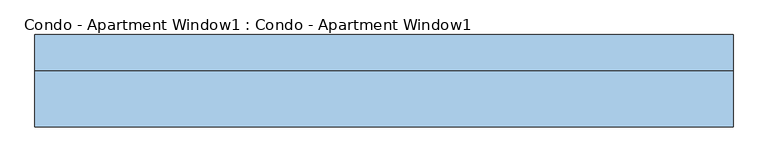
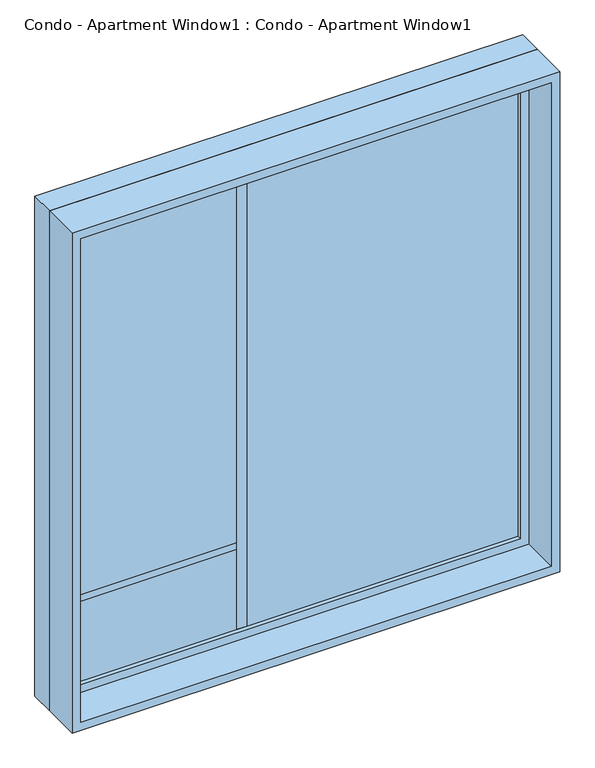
"""IFC4 building model written with IfcOpenShell, lengths in millimetres: window geometry, Condo - Apartment Window1 : Condo - Apartment Window1."""

from ifc_helpers import new_model, si_unit, frame, origin, place, context, project, spatial, polyline, outline, extrude, source, transform, mapped, element, save


def condo_apartment_window1_condo_apartment_window1_2f492663(model_context):
    return source(origin(), model_context, "Body", "SweptSolid", [
        extrude(outline(polyline([(-241.3, 66.675), (-203.2, 66.675), (-203.2, 41.275), (-241.3, 41.275), (-241.3, 66.675)])), frame((0.0, 0.0, 965.2), z_axis=(0.0, 0.0, 1.0), x_axis=(1.0, 0.0, 0.0)), (0.0, 0.0, 1.0), 1854.2),
        extrude(outline(polyline([(-889.0, 66.675), (-241.3, 66.675), (-241.3, 41.275), (-889.0, 41.275), (-889.0, 66.675)])), frame((0.0, 0.0, 1282.7), z_axis=(0.0, 0.0, 1.0), x_axis=(1.0, 0.0, 0.0)), (0.0, 0.0, 1.0), 25.4),
        extrude(outline(polyline([(812.8, 41.275), (-889.0, 41.275), (-889.0, 53.975), (812.8, 53.975), (812.8, 41.275)])), frame((0.0, 0.0, 965.2), z_axis=(0.0, 0.0, 1.0), x_axis=(1.0, 0.0, 0.0)), (0.0, 0.0, 1.0), 1854.2),
        extrude(outline(polyline([(2863.85, -933.45), (920.75, -933.45), (920.75, 857.25), (2863.85, 857.25), (2863.85, -933.45)]), holes=[polyline([(2819.4, -889.0), (2819.4, 812.8), (965.2, 812.8), (965.2, -889.0), (2819.4, -889.0)])]), frame((0.0, 25.4, 0.0), z_axis=(0.0, 1.0, 0.0), x_axis=(0.0, 0.0, 1.0)), (0.0, 0.0, 1.0), 44.45),
        extrude(outline(polyline([(2882.9, -952.5), (901.7, -952.5), (901.7, 876.3), (2882.9, 876.3), (2882.9, -952.5)]), holes=[polyline([(2851.15, -920.75), (2851.15, 844.55), (933.45, 844.55), (933.45, -920.75), (2851.15, -920.75)])]), frame((0.0, -120.65, 0.0), z_axis=(0.0, 1.0, 0.0), x_axis=(0.0, 0.0, 1.0)), (0.0, 0.0, 1.0), 146.05),
        extrude(outline(polyline([(2882.9, 876.3), (2882.9, -952.5), (901.7, -952.5), (901.7, 876.3), (2882.9, 876.3)]), holes=[polyline([(2863.85, 857.25), (920.75, 857.25), (920.75, -933.45), (2863.85, -933.45), (2863.85, 857.25)])]), frame((0.0, 25.4, 0.0), z_axis=(0.0, 1.0, 0.0), x_axis=(0.0, 0.0, 1.0)), (0.0, 0.0, 1.0), 95.25),
    ])


if __name__ == "__main__":
    model = new_model("IFC4")
    model_context = context("Model", 3, world=origin())
    ifc_project = project(units=[si_unit("LENGTHUNIT", "METRE", prefix="MILLI")], contexts=[model_context])
    site = spatial("IfcSite", under=ifc_project)
    building = spatial("IfcBuilding", under=site)
    placement = place(None, origin())
    condo_apartment_window1_condo_apartment_window1_shape = condo_apartment_window1_condo_apartment_window1_2f492663(model_context)
    element("IfcWindow", 1, ObjectType="Condo - Apartment Window1 : Condo - Apartment Window1", at=placement, inside=building, context=model_context, shape_type="MappedRepresentation", body=[
        mapped(condo_apartment_window1_condo_apartment_window1_shape, transform((0.0, 0.0, 0.0), x_axis=(1.0, 0.0, 0.0), y_axis=(0.0, 1.0, 0.0), z_axis=(0.0, 0.0, 1.0))),
    ])
    save(model, "model.ifc")
